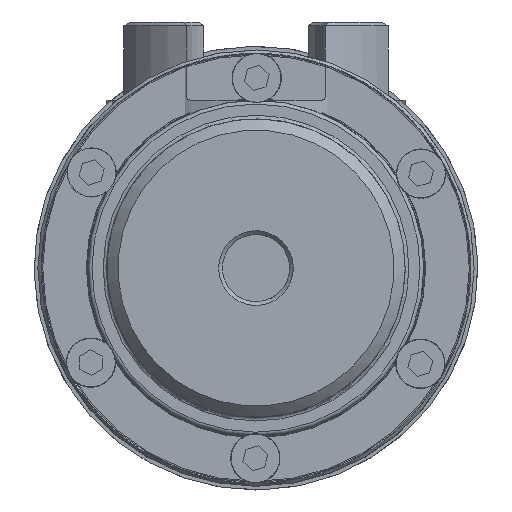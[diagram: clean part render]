
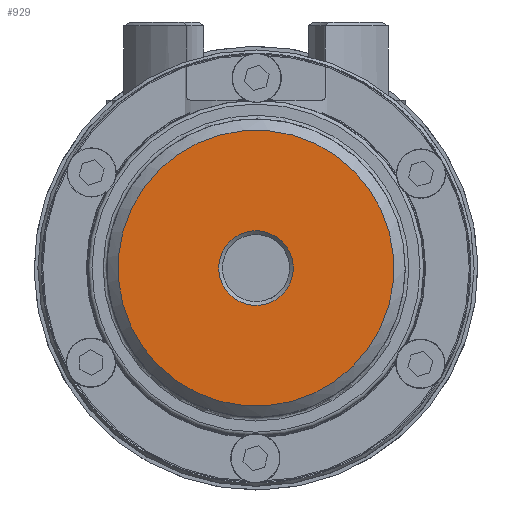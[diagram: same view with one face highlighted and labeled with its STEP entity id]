
A CAD part, left-side view. The second image highlights one B-rep face of the part: STEP entity #929.
In plain terms, the highlighted planar face has unit normal (-1, 0, 0) as drawn and (0, 0, -1) by its records, which use the part's own axes.
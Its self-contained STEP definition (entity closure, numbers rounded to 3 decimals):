
#929 = ADVANCED_FACE( '', ( #1796, #1797 ), #1798, .T. );
#1796 = FACE_OUTER_BOUND( '', #2649, .T. );
#1797 = FACE_BOUND( '', #2650, .T. );
#1798 = PLANE( '', #2651 );
#2649 = EDGE_LOOP( '', ( #4518 ) );
#2650 = EDGE_LOOP( '', ( #4519 ) );
#2651 = AXIS2_PLACEMENT_3D( '', #4520, #4521, #4522 );
#4518 = ORIENTED_EDGE( '', *, *, #5680, .T. );
#4519 = ORIENTED_EDGE( '', *, *, #5723, .T. );
#4520 = CARTESIAN_POINT( '', ( 0., 0., 0. ) );
#4521 = DIRECTION( '', ( 0., 0., -1. ) );
#4522 = DIRECTION( '', ( 0., -1., 0. ) );
#5680 = EDGE_CURVE( '', #6693, #6693, #6694, .T. );
#5723 = EDGE_CURVE( '', #6760, #6760, #6761, .F. );
#6693 = VERTEX_POINT( '', #8562 );
#6694 = CIRCLE( '', #8563, 37. );
#6760 = VERTEX_POINT( '', #8705 );
#6761 = CIRCLE( '', #8706, 10. );
#8562 = CARTESIAN_POINT( '', ( -37., 0., 0. ) );
#8563 = AXIS2_PLACEMENT_3D( '', #9889, #9890, #9891 );
#8705 = CARTESIAN_POINT( '', ( -10., 0., 0. ) );
#8706 = AXIS2_PLACEMENT_3D( '', #9953, #9954, #9955 );
#9889 = CARTESIAN_POINT( '', ( 0., 0., 0. ) );
#9890 = DIRECTION( '', ( 0., 0., -1. ) );
#9891 = DIRECTION( '', ( -1., 0., 0. ) );
#9953 = CARTESIAN_POINT( '', ( 0., 0., 0. ) );
#9954 = DIRECTION( '', ( 0., 0., -1. ) );
#9955 = DIRECTION( '', ( -1., 0., 0. ) );
